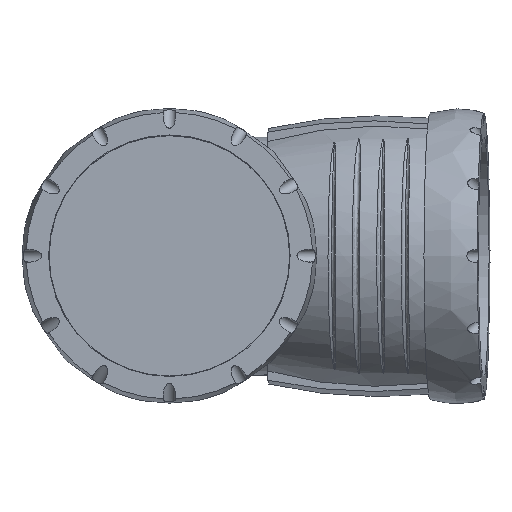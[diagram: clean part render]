
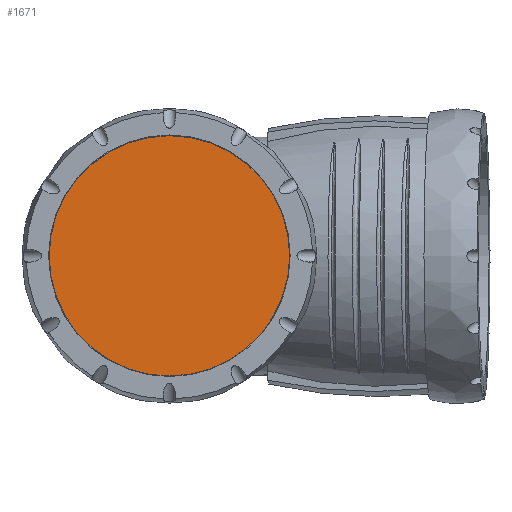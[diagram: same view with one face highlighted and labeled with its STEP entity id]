
A CAD part, top view. The second image highlights one B-rep face of the part: STEP entity #1671.
In plain terms, the highlighted planar face has unit normal (0, 0, 1).
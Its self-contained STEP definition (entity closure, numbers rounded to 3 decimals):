
#227=PLANE('',#1812);
#305=FACE_OUTER_BOUND('',#415,.T.);
#415=EDGE_LOOP('',(#1079));
#553=CIRCLE('',#1813,37.95);
#634=VERTEX_POINT('',#2398);
#816=EDGE_CURVE('',#634,#634,#553,.T.);
#1079=ORIENTED_EDGE('',*,*,#816,.T.);
#1671=ADVANCED_FACE('',(#305),#227,.T.);
#1812=AXIS2_PLACEMENT_3D('',#2397,#2029,#2030);
#1813=AXIS2_PLACEMENT_3D('',#2399,#2031,#2032);
#2029=DIRECTION('center_axis',(0.,0.,
1.));
#2030=DIRECTION('ref_axis',(0.,1.,0.));
#2031=DIRECTION('center_axis',(0.,0.,
1.));
#2032=DIRECTION('ref_axis',(0.,1.,0.));
#2397=CARTESIAN_POINT('Origin',(0.,0.,
141.08));
#2398=CARTESIAN_POINT('',(-37.95,0.,141.08));
#2399=CARTESIAN_POINT('Origin',(0.,0.,
141.08));
